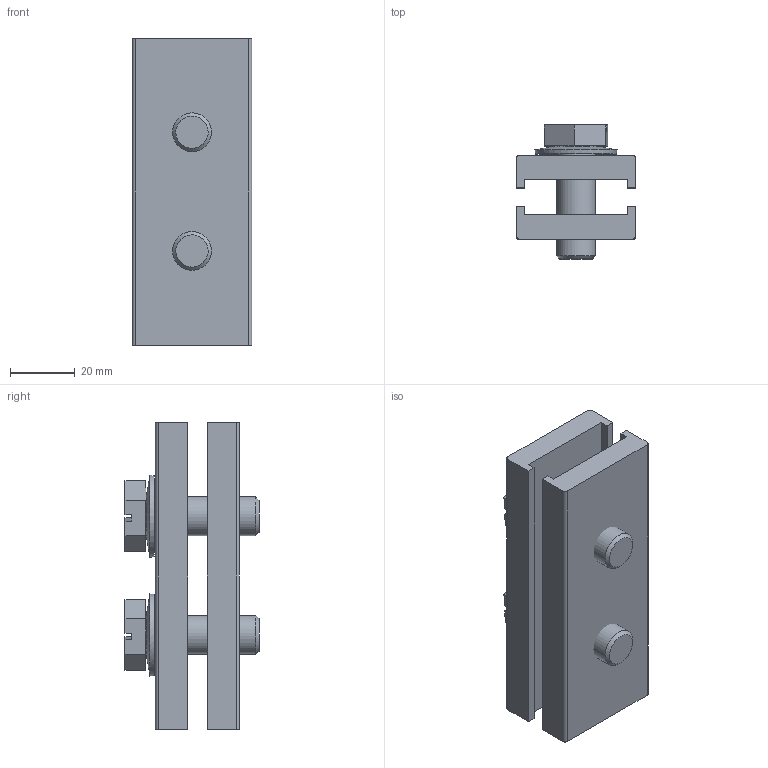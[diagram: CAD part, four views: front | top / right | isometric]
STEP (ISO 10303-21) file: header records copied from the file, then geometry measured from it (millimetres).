
FILE_DESCRIPTION (( 'STEP AP203' ), '1' );
FILE_NAME ('54141.STEP', '2021-08-16T02:15:14', ( '' ), ( '' ), 'SwSTEP 2.0', 'SolidWorks 2017', '' );
FILE_SCHEMA (( 'CONFIG_CONTROL_DESIGN' ));
Length unit declared in the file: millimetre
Products named in the file (2): 54141
Bounding box: 37 x 41.5 x 95 mm (x, y, z)
Volume: 64934.6 mm3; surface area: 26750 mm2
Topology: 6 solids, 6 shells, 68 faces, 168 edges, 112 vertices
Faces by surface type: plane 48, cylinder 10, cone 10
Full cylindrical faces by diameter (mm): 10.106 x2, 12 x2, 12.5 x2
Entity records: 2021 total; most frequent: CARTESIAN_POINT 318, DIRECTION 316, ORIENTED_EDGE 288, EDGE_CURVE 144, VECTOR 112, LINE 112, VERTEX_POINT 104, AXIS2_PLACEMENT_3D 102
